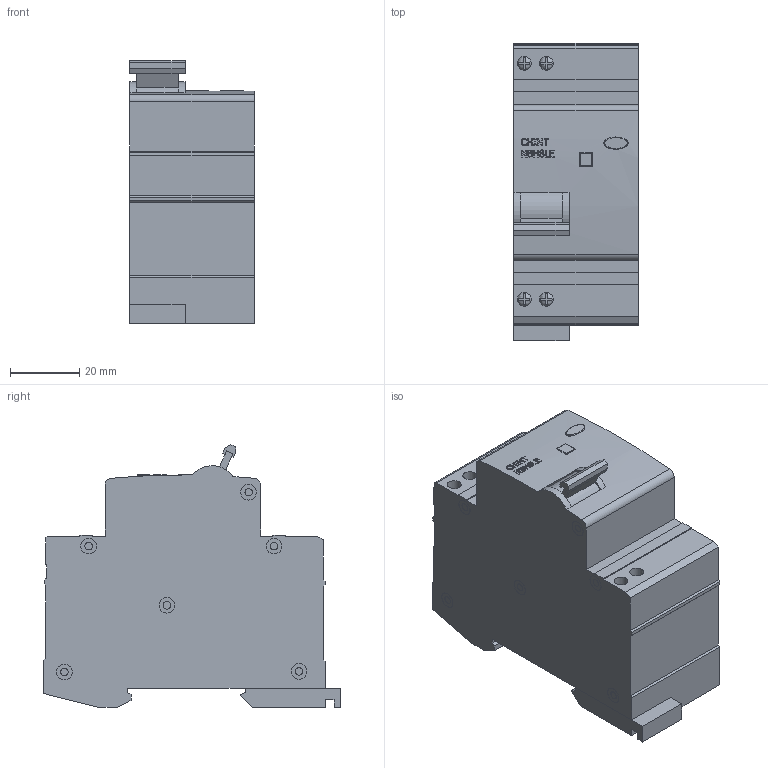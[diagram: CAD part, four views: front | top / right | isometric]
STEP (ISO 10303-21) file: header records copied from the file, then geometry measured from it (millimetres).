
FILE_DESCRIPTION(/* description */ (''),/* implementation_level */ '2;1');
FILE_NAME(/* name */ 'D:\CHINT\NBH8LE\Диф. автомат NBH8LE-40 1P+N 6A 30mA х-ка С 4.5kA (R) (CHINT).stp',/* time_stamp */ '2017-09-24T20:37:53+04:00',/* author */ ('RSagdiev'),/* organization */ (''),/* preprocessor_version */ 'ST-DEVELOPER v16.5',/* originating_system */ 'Autodesk Inventor 2017',/* authorisation */ '');
FILE_SCHEMA (('AUTOMOTIVE_DESIGN { 1 0 10303 214 3 1 1 }'));
Length unit declared in the file: millimetre
Products named in the file (1): Диф. автомат NBH8LE-40 
1P+N 6A 30mA х-ка С 4.5kA (R) (CHI
NT)
Bounding box: 36 x 86 x 76.01 mm (x, y, z)
Volume: 164200.8 mm3; surface area: 24250.4 mm2
Topology: 10 solids, 10 shells, 399 faces, 1004 edges, 670 vertices
Faces by surface type: plane 283, cylinder 60, bspline 56
Full cylindrical faces by diameter (mm): 2.111 x2, 2.171 x2, 2.212 x6, 4 x8, 4.524 x12
Entity records: 13236 total; most frequent: CARTESIAN_POINT 3904, ORIENTED_EDGE 1938, DIRECTION 1762, EDGE_CURVE 969, VERTEX_POINT 661, LINE 596, VECTOR 596, AXIS2_PLACEMENT_3D 583
